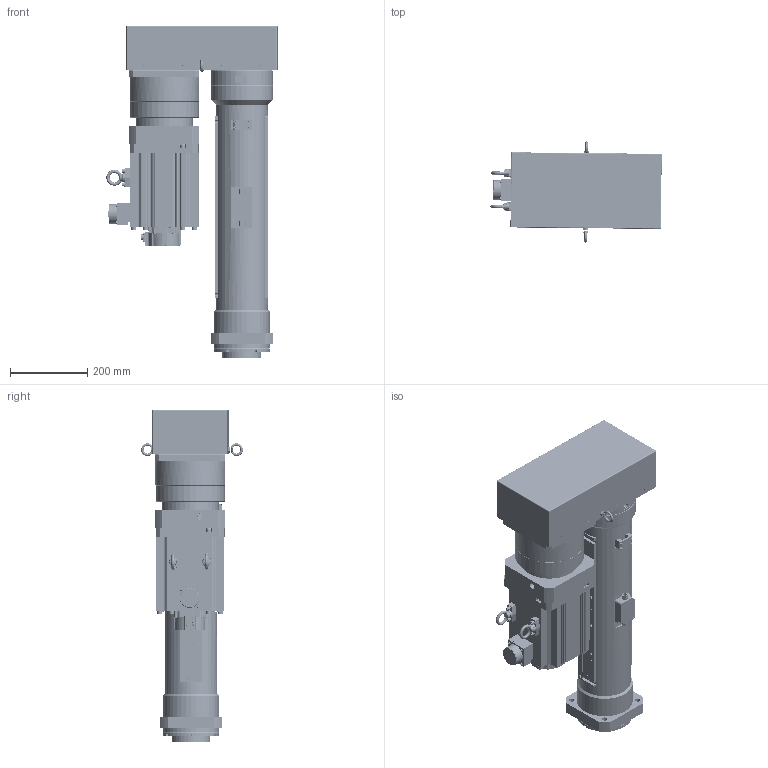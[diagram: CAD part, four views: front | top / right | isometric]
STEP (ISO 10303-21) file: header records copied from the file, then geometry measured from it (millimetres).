
FILE_DESCRIPTION( ('This file contains a STEP AP42 implementation' ,'as created by ZW3D STEP Interface translator.') ,'2;1' );
FILE_NAME( 'OACIS-DC-P080-P100-400-150-A6V200_v20.51.stp' ,'26 430.15 434', (''), ('ZWCAD Software Co.'), 'Version 1.0', 'ZW3D to STEP translator', '' );
FILE_SCHEMA(('AUTOMOTIVE_DESIGN { 1 0 10303 214 1 1 1 1 }'));
Length unit declared in the file: millimetre
Products named in the file (1): 0
Bounding box: 443 x 262.74 x 858 mm (x, y, z)
Volume: 22571605.6 mm3; surface area: 2745104.3 mm2
Topology: 50 solids, 61 shells, 2475 faces, 6242 edges, 4048 vertices
Faces by surface type: cylinder 1029, plane 974, cone 335, torus 107, bspline 18, sphere 12
Full cylindrical faces by diameter (mm): 1.6 x8, 3.3 x82, 4.2 x18, 4.3 x30, 4.5 x8, 5 x4, 5.3 x4, 5.5 x6, 6.647 x2, 6.8 x69, 7 x8, 8 x36, 8.4 x8, 8.5 x1, 9 x19, 9.5 x4, 10 x6, 10.106 x4, 10.2 x8, 11 x4, 13 x12, 13.083 x1, 13.5 x4, 14 x23, 14.8 x1, 15 x8, 16 x10, 16.5 x2, 17.294 x1, 18 x5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
Entity records: 85995 total; most frequent: CARTESIAN_POINT 20946, DIRECTION 13362, ORIENTED_EDGE 12258, EDGE_CURVE 6140, AXIS2_PLACEMENT_3D 5111, VERTEX_POINT 4045, VECTOR 3140, LINE 3140
